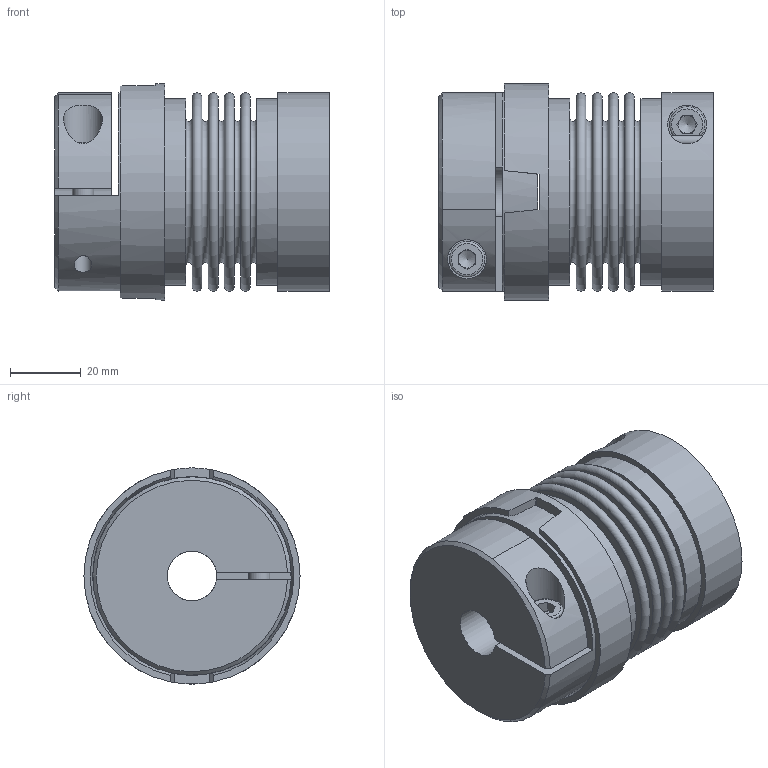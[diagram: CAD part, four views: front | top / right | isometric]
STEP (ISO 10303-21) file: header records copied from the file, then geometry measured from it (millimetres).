
FILE_DESCRIPTION( ( 'Unknown' ), '1' );
FILE_NAME( 'F:/JAKOB-STEP+IGES-Dateien/STEP-Dateien/KPP/KPP 35.stp', 'Unknown', ( 'Unknown' ), ( 'Unknown' ), 'PSStep 10.1', 'Unknown', ' ' );
FILE_SCHEMA( ( 'AUTOMOTIVE_DESIGN { 1 0 10303 214 1 1 1 1 }' ) );
Length unit declared in the file: millimetre
Products named in the file (1): kt101732
Bounding box: 77.5 x 61 x 61 mm (x, y, z)
Volume: 125310.6 mm3; surface area: 56829.5 mm2
Topology: 1 solids, 1 shells, 136 faces, 323 edges, 212 vertices
Faces by surface type: plane 86, cylinder 22, torus 22, cone 6
Full cylindrical faces by diameter (mm): 5 x2, 6 x2, 6.6 x2, 10 x2, 11 x2, 14 x1, 30.5 x1, 52.6 x2, 56 x1, 61 x1
Entity records: 5088 total; most frequent: CARTESIAN_POINT 994, DIRECTION 668, ORIENTED_EDGE 528, AXIS2_PLACEMENT_3D 278, EDGE_CURVE 264, EDGE_LOOP 206, VERTEX_POINT 194, FACE_OUTER_BOUND 171
